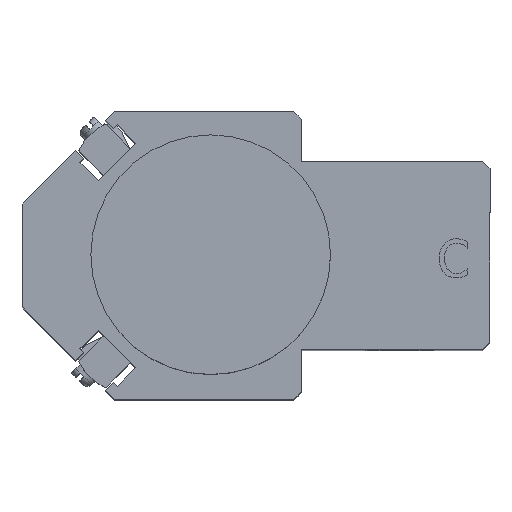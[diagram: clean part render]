
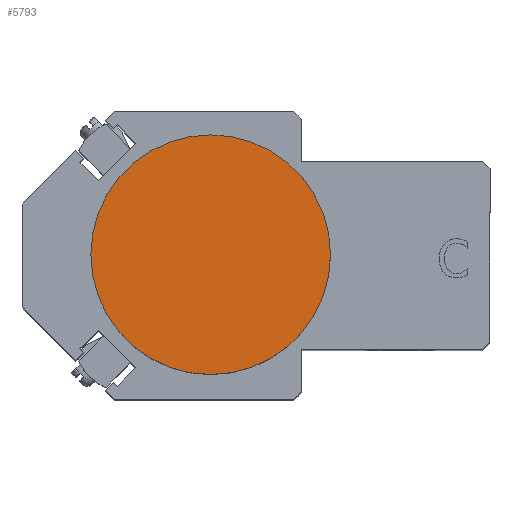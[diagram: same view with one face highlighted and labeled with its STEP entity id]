
A CAD part, top view. The second image highlights one B-rep face of the part: STEP entity #5793.
In plain terms, the highlighted planar face has unit normal (0, 0, 1) as drawn and (1, 0, 0) by its records, which use the part's own axes.
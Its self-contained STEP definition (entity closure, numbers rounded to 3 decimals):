
#519=PLANE('',#6600);
#811=FACE_OUTER_BOUND('',#1155,.T.);
#1155=EDGE_LOOP('',(#5373,#5374));
#2411=CIRCLE('',#6601,15.875);
#2412=CIRCLE('',#6602,15.875);
#2968=VERTEX_POINT('',#10208);
#2969=VERTEX_POINT('',#10209);
#3777=EDGE_CURVE('',#2968,#2969,#2411,.T.);
#3778=EDGE_CURVE('',#2969,#2968,#2412,.T.);
#5373=ORIENTED_EDGE('',*,*,#3777,.F.);
#5374=ORIENTED_EDGE('',*,*,#3778,.F.);
#5793=ADVANCED_FACE('',(#811),#519,.T.);
#6600=AXIS2_PLACEMENT_3D('',#10207,#8181,#8182);
#6601=AXIS2_PLACEMENT_3D('',#10210,#8183,#8184);
#6602=AXIS2_PLACEMENT_3D('',#10211,#8185,#8186);
#8181=DIRECTION('center_axis',(1.,0.,0.));
#8182=DIRECTION('ref_axis',(0.,0.,-1.));
#8183=DIRECTION('center_axis',(-1.,0.,0.));
#8184=DIRECTION('ref_axis',(0.,-1.,0.));
#8185=DIRECTION('center_axis',(-1.,0.,0.));
#8186=DIRECTION('ref_axis',(0.,-1.,0.));
#10207=CARTESIAN_POINT('Origin',(13.,-7.938,0.));
#10208=CARTESIAN_POINT('',(13.,-15.875,0.));
#10209=CARTESIAN_POINT('',(13.,15.875,0.));
#10210=CARTESIAN_POINT('Origin',(13.,0.,0.));
#10211=CARTESIAN_POINT('Origin',(13.,0.,0.));
